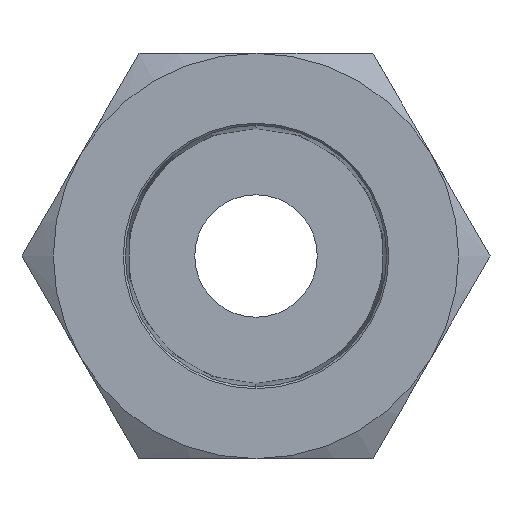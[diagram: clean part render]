
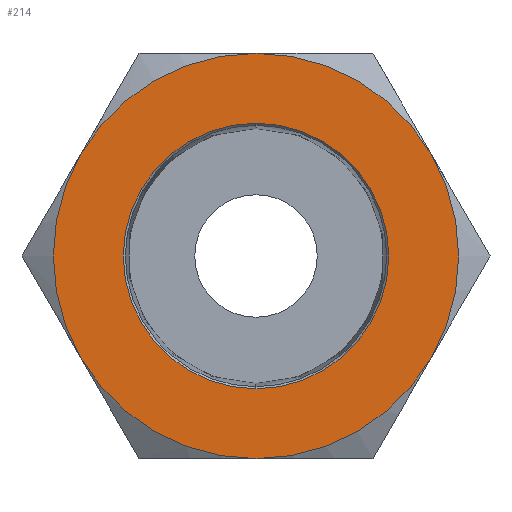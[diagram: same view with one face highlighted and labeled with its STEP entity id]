
A CAD part, left-side view. The second image highlights one B-rep face of the part: STEP entity #214.
In plain terms, the highlighted planar face has unit normal (-1, 0, 0).
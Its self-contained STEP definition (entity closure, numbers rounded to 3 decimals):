
#70 = VERTEX_POINT ( 'NONE', #800 ) ;
#72 = EDGE_CURVE ( 'NONE', #70, #73, #799, .T. ) ;
#73 = VERTEX_POINT ( 'NONE', #794 ) ;
#191 = VERTEX_POINT ( 'NONE', #1035 ) ;
#214 = ADVANCED_FACE ( 'NONE', ( #922, #921 ), #924, .F. ) ;
#215 = EDGE_LOOP ( 'NONE', ( #216, #363 ) ) ;
#216 = ORIENTED_EDGE ( 'NONE', *, *, #362, .F. ) ;
#217 = VERTEX_POINT ( 'NONE', #1097 ) ;
#227 = VERTEX_POINT ( 'NONE', #1123 ) ;
#286 = VERTEX_POINT ( 'NONE', #1148 ) ;
#317 = VERTEX_POINT ( 'NONE', #1485 ) ;
#329 = ORIENTED_EDGE ( 'NONE', *, *, #330, .F. ) ;
#330 = EDGE_CURVE ( 'NONE', #317, #286, #1426, .T. ) ;
#344 = VERTEX_POINT ( 'NONE', #1454 ) ;
#362 = EDGE_CURVE ( 'NONE', #73, #70, #1357, .T. ) ;
#363 = ORIENTED_EDGE ( 'NONE', *, *, #72, .F. ) ;
#364 = EDGE_LOOP ( 'NONE', ( #365, #367, #369, #371, #373, #329 ) ) ;
#365 = ORIENTED_EDGE ( 'NONE', *, *, #366, .F. ) ;
#366 = EDGE_CURVE ( 'NONE', #227, #317, #1318, .T. ) ;
#367 = ORIENTED_EDGE ( 'NONE', *, *, #368, .F. ) ;
#368 = EDGE_CURVE ( 'NONE', #217, #227, #1313, .T. ) ;
#369 = ORIENTED_EDGE ( 'NONE', *, *, #370, .F. ) ;
#370 = EDGE_CURVE ( 'NONE', #191, #217, #1308, .T. ) ;
#371 = ORIENTED_EDGE ( 'NONE', *, *, #372, .F. ) ;
#372 = EDGE_CURVE ( 'NONE', #344, #191, #1303, .T. ) ;
#373 = ORIENTED_EDGE ( 'NONE', *, *, #374, .T. ) ;
#374 = EDGE_CURVE ( 'NONE', #344, #286, #1298, .T. ) ;
#794 = CARTESIAN_POINT ( 'NONE',  ( 0., 0., 5.2 ) ) ;
#795 = DIRECTION ( 'NONE',  ( 0., 0., 1. ) ) ;
#796 = DIRECTION ( 'NONE',  ( -1., 0., 0. ) ) ;
#797 = CARTESIAN_POINT ( 'NONE',  ( 0., 0., 0. ) ) ;
#798 = AXIS2_PLACEMENT_3D ( 'NONE', #797, #796, #795 ) ;
#799 = CIRCLE ( 'NONE', #798, 5.2 ) ;
#800 = CARTESIAN_POINT ( 'NONE',  ( 0., 0., -5.2 ) ) ;
#909 = DIRECTION ( 'NONE',  ( 0., 0., -1. ) ) ;
#910 = DIRECTION ( 'NONE',  ( 1., 0., 0. ) ) ;
#911 = CARTESIAN_POINT ( 'NONE',  ( 0., 9.168, 0. ) ) ;
#920 = AXIS2_PLACEMENT_3D ( 'NONE', #911, #910, #909 ) ;
#921 = FACE_OUTER_BOUND ( 'NONE', #364, .T. ) ;
#922 = FACE_BOUND ( 'NONE', #215, .T. ) ;
#924 = PLANE ( 'NONE',  #920 ) ;
#1035 = CARTESIAN_POINT ( 'NONE',  ( 0., -6.876, 3.97 ) ) ;
#1097 = CARTESIAN_POINT ( 'NONE',  ( 0., -6.876, -3.97 ) ) ;
#1123 = CARTESIAN_POINT ( 'NONE',  ( 0., 0., -7.94 ) ) ;
#1148 = CARTESIAN_POINT ( 'NONE',  ( 0., 6.876, 3.97 ) ) ;
#1294 = DIRECTION ( 'NONE',  ( 0., 0., 1. ) ) ;
#1295 = DIRECTION ( 'NONE',  ( -1., 0., 0. ) ) ;
#1296 = CARTESIAN_POINT ( 'NONE',  ( 0., 0., 0. ) ) ;
#1297 = AXIS2_PLACEMENT_3D ( 'NONE', #1296, #1295, #1294 ) ;
#1298 = CIRCLE ( 'NONE', #1297, 7.94 ) ;
#1299 = DIRECTION ( 'NONE',  ( 0., 0., -1. ) ) ;
#1300 = DIRECTION ( 'NONE',  ( 1., 0., 0. ) ) ;
#1301 = CARTESIAN_POINT ( 'NONE',  ( 0., 0., 0. ) ) ;
#1302 = AXIS2_PLACEMENT_3D ( 'NONE', #1301, #1300, #1299 ) ;
#1303 = CIRCLE ( 'NONE', #1302, 7.94 ) ;
#1304 = DIRECTION ( 'NONE',  ( 0., 0., -1. ) ) ;
#1305 = DIRECTION ( 'NONE',  ( 1., 0., 0. ) ) ;
#1306 = CARTESIAN_POINT ( 'NONE',  ( 0., 0., 0. ) ) ;
#1307 = AXIS2_PLACEMENT_3D ( 'NONE', #1306, #1305, #1304 ) ;
#1308 = CIRCLE ( 'NONE', #1307, 7.94 ) ;
#1309 = DIRECTION ( 'NONE',  ( 0., 0., -1. ) ) ;
#1310 = DIRECTION ( 'NONE',  ( 1., 0., 0. ) ) ;
#1311 = CARTESIAN_POINT ( 'NONE',  ( 0., 0., 0. ) ) ;
#1312 = AXIS2_PLACEMENT_3D ( 'NONE', #1311, #1310, #1309 ) ;
#1313 = CIRCLE ( 'NONE', #1312, 7.94 ) ;
#1314 = DIRECTION ( 'NONE',  ( 0., 0., -1. ) ) ;
#1315 = DIRECTION ( 'NONE',  ( 1., 0., 0. ) ) ;
#1316 = CARTESIAN_POINT ( 'NONE',  ( 0., 0., 0. ) ) ;
#1317 = AXIS2_PLACEMENT_3D ( 'NONE', #1316, #1315, #1314 ) ;
#1318 = CIRCLE ( 'NONE', #1317, 7.94 ) ;
#1319 = DIRECTION ( 'NONE',  ( 0., 0., 1. ) ) ;
#1320 = DIRECTION ( 'NONE',  ( -1., 0., 0. ) ) ;
#1321 = CARTESIAN_POINT ( 'NONE',  ( 0., 0., 0. ) ) ;
#1322 = AXIS2_PLACEMENT_3D ( 'NONE', #1321, #1320, #1319 ) ;
#1357 = CIRCLE ( 'NONE', #1322, 5.2 ) ;
#1416 = DIRECTION ( 'NONE',  ( 0., 0., -1. ) ) ;
#1417 = DIRECTION ( 'NONE',  ( 1., 0., 0. ) ) ;
#1418 = CARTESIAN_POINT ( 'NONE',  ( 0., 0., 0. ) ) ;
#1419 = AXIS2_PLACEMENT_3D ( 'NONE', #1418, #1417, #1416 ) ;
#1426 = CIRCLE ( 'NONE', #1419, 7.94 ) ;
#1454 = CARTESIAN_POINT ( 'NONE',  ( 0., 0., 7.94 ) ) ;
#1485 = CARTESIAN_POINT ( 'NONE',  ( 0., 6.876, -3.97 ) ) ;
